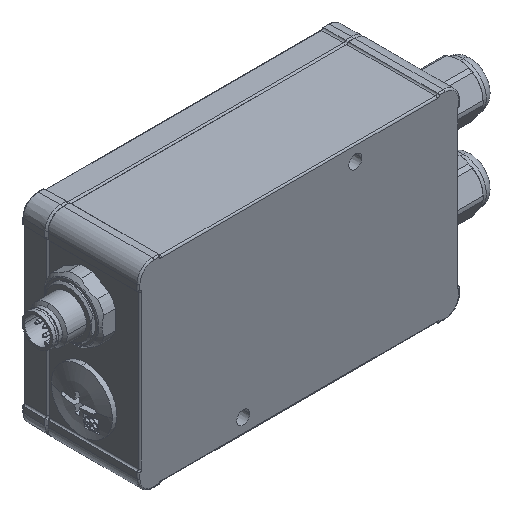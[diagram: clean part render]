
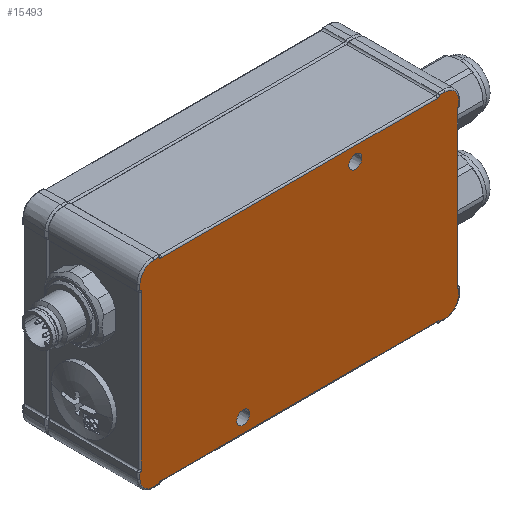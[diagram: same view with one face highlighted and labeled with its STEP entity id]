
A CAD part, isometric view. The second image highlights one B-rep face of the part: STEP entity #15493.
In plain terms, the highlighted planar face has unit normal (0, -1, 0).
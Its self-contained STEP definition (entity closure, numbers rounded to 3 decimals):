
#56=DIRECTION('',(0.,0.,1.));
#57=VECTOR('',#56,1.634);
#58=CARTESIAN_POINT('',(52.,0.,25.866));
#59=LINE('',#58,#57);
#64=CARTESIAN_POINT('',(52.5,0.,25.));
#65=DIRECTION('',(0.,-1.,0.));
#66=DIRECTION('',(-0.5,0.,0.866));
#67=AXIS2_PLACEMENT_3D('',#64,#65,#66);
#72=DIRECTION('',(0.,0.,-1.));
#73=VECTOR('',#72,50.);
#74=CARTESIAN_POINT('',(51.5,0.,25.));
#75=LINE('',#74,#73);
#79=CARTESIAN_POINT('',(52.5,0.,-25.));
#80=DIRECTION('',(0.,-1.,0.));
#81=DIRECTION('',(-1.,0.,0.));
#82=AXIS2_PLACEMENT_3D('',#79,#80,#81);
#87=DIRECTION('',(0.,0.,1.));
#88=VECTOR('',#87,1.634);
#89=CARTESIAN_POINT('',(52.,0.,-27.5));
#90=LINE('',#89,#88);
#94=CARTESIAN_POINT('',(47.5,0.,-27.5));
#95=DIRECTION('',(0.,-1.,0.));
#96=DIRECTION('',(0.,0.,-1.));
#97=AXIS2_PLACEMENT_3D('',#94,#95,#96);
#102=DIRECTION('',(1.,0.,0.));
#103=VECTOR('',#102,1.634);
#104=CARTESIAN_POINT('',(45.866,0.,-32.));
#105=LINE('',#104,#103);
#109=CARTESIAN_POINT('',(45.,0.,-32.5));
#110=DIRECTION('',(0.,-1.,0.));
#111=DIRECTION('',(0.866,0.,0.5));
#112=AXIS2_PLACEMENT_3D('',#109,#110,#111);
#117=DIRECTION('',(-1.,0.,0.));
#118=VECTOR('',#117,90.);
#119=CARTESIAN_POINT('',(45.,0.,-31.5));
#120=LINE('',#119,#118);
#124=CARTESIAN_POINT('',(-45.,0.,-32.5));
#125=DIRECTION('',(0.,-1.,0.));
#126=DIRECTION('',(0.,0.,1.));
#127=AXIS2_PLACEMENT_3D('',#124,#125,#126);
#132=DIRECTION('',(1.,0.,0.));
#133=VECTOR('',#132,1.634);
#134=CARTESIAN_POINT('',(-47.5,0.,-32.));
#135=LINE('',#134,#133);
#139=CARTESIAN_POINT('',(-47.5,0.,-27.5));
#140=DIRECTION('',(0.,-1.,0.));
#141=DIRECTION('',(-1.,0.,0.));
#142=AXIS2_PLACEMENT_3D('',#139,#140,#141);
#147=DIRECTION('',(0.,0.,-1.));
#148=VECTOR('',#147,1.634);
#149=CARTESIAN_POINT('',(-52.,0.,-25.866));
#150=LINE('',#149,#148);
#154=CARTESIAN_POINT('',(-52.5,0.,-25.));
#155=DIRECTION('',(0.,-1.,0.));
#156=DIRECTION('',(0.5,0.,-0.866));
#157=AXIS2_PLACEMENT_3D('',#154,#155,#156);
#162=DIRECTION('',(0.,0.,1.));
#163=VECTOR('',#162,50.);
#164=CARTESIAN_POINT('',(-51.5,0.,-25.));
#165=LINE('',#164,#163);
#169=CARTESIAN_POINT('',(-52.5,0.,25.));
#170=DIRECTION('',(0.,-1.,0.));
#171=DIRECTION('',(1.,0.,0.));
#172=AXIS2_PLACEMENT_3D('',#169,#170,#171);
#177=DIRECTION('',(0.,0.,-1.));
#178=VECTOR('',#177,1.634);
#179=CARTESIAN_POINT('',(-52.,0.,27.5));
#180=LINE('',#179,#178);
#184=CARTESIAN_POINT('',(-47.5,0.,27.5));
#185=DIRECTION('',(0.,-1.,0.));
#186=DIRECTION('',(0.,0.,1.));
#187=AXIS2_PLACEMENT_3D('',#184,#185,#186);
#192=DIRECTION('',(-1.,0.,0.));
#193=VECTOR('',#192,1.634);
#194=CARTESIAN_POINT('',(-45.866,0.,32.));
#195=LINE('',#194,#193);
#199=CARTESIAN_POINT('',(-45.,0.,32.5));
#200=DIRECTION('',(0.,-1.,0.));
#201=DIRECTION('',(-0.866,0.,-0.5));
#202=AXIS2_PLACEMENT_3D('',#199,#200,#201);
#207=DIRECTION('',(1.,0.,0.));
#208=VECTOR('',#207,90.);
#209=CARTESIAN_POINT('',(-45.,0.,31.5));
#210=LINE('',#209,#208);
#214=CARTESIAN_POINT('',(45.,0.,32.5));
#215=DIRECTION('',(0.,-1.,0.));
#216=DIRECTION('',(0.,0.,-1.));
#217=AXIS2_PLACEMENT_3D('',#214,#215,#216);
#222=DIRECTION('',(-1.,0.,0.));
#223=VECTOR('',#222,1.634);
#224=CARTESIAN_POINT('',(47.5,0.,32.));
#225=LINE('',#224,#223);
#229=CARTESIAN_POINT('',(47.5,0.,27.5));
#230=DIRECTION('',(0.,-1.,0.));
#231=DIRECTION('',(1.,0.,0.));
#232=AXIS2_PLACEMENT_3D('',#229,#230,#231);
#237=CARTESIAN_POINT('',(-18.3,0.,-27.));
#238=DIRECTION('',(0.,1.,0.));
#239=DIRECTION('',(1.,0.,0.));
#240=AXIS2_PLACEMENT_3D('',#237,#238,#239);
#245=CARTESIAN_POINT('',(-18.3,0.,-27.));
#246=DIRECTION('',(0.,1.,0.));
#247=DIRECTION('',(-1.,0.,0.));
#248=AXIS2_PLACEMENT_3D('',#245,#246,#247);
#253=CARTESIAN_POINT('',(18.3,0.,27.));
#254=DIRECTION('',(0.,1.,0.));
#255=DIRECTION('',(-1.,0.,0.));
#256=AXIS2_PLACEMENT_3D('',#253,#254,#255);
#261=CARTESIAN_POINT('',(18.3,0.,27.));
#262=DIRECTION('',(0.,1.,0.));
#263=DIRECTION('',(1.,0.,0.));
#264=AXIS2_PLACEMENT_3D('',#261,#262,#263);
#13659=CARTESIAN_POINT('',(-16.15,0.,-27.));
#13660=CARTESIAN_POINT('',(-20.45,0.,-27.));
#13661=VERTEX_POINT('',#13659);
#13662=VERTEX_POINT('',#13660);
#13667=CARTESIAN_POINT('',(16.15,0.,27.));
#13668=CARTESIAN_POINT('',(20.45,0.,27.));
#13669=VERTEX_POINT('',#13667);
#13670=VERTEX_POINT('',#13668);
#13695=CARTESIAN_POINT('',(52.,0.,25.866));
#13696=CARTESIAN_POINT('',(52.,0.,27.5));
#13697=VERTEX_POINT('',#13695);
#13698=VERTEX_POINT('',#13696);
#13703=CARTESIAN_POINT('',(47.5,0.,32.));
#13704=VERTEX_POINT('',#13703);
#13709=CARTESIAN_POINT('',(45.866,0.,32.));
#13710=VERTEX_POINT('',#13709);
#13715=CARTESIAN_POINT('',(51.5,0.,25.));
#13716=CARTESIAN_POINT('',(51.5,0.,-25.));
#13717=VERTEX_POINT('',#13715);
#13718=VERTEX_POINT('',#13716);
#13719=CARTESIAN_POINT('',(45.866,0.,-32.));
#13720=CARTESIAN_POINT('',(47.5,0.,-32.));
#13721=VERTEX_POINT('',#13719);
#13722=VERTEX_POINT('',#13720);
#13727=CARTESIAN_POINT('',(52.,0.,-27.5));
#13728=VERTEX_POINT('',#13727);
#13733=CARTESIAN_POINT('',(52.,0.,-25.866));
#13734=VERTEX_POINT('',#13733);
#13739=CARTESIAN_POINT('',(45.,0.,-31.5));
#13740=CARTESIAN_POINT('',(-45.,0.,-31.5));
#13741=VERTEX_POINT('',#13739);
#13742=VERTEX_POINT('',#13740);
#13743=CARTESIAN_POINT('',(-52.,0.,-25.866));
#13744=CARTESIAN_POINT('',(-52.,0.,-27.5));
#13745=VERTEX_POINT('',#13743);
#13746=VERTEX_POINT('',#13744);
#13751=CARTESIAN_POINT('',(-47.5,0.,-32.));
#13752=VERTEX_POINT('',#13751);
#13757=CARTESIAN_POINT('',(-45.866,0.,-32.));
#13758=VERTEX_POINT('',#13757);
#13763=CARTESIAN_POINT('',(-51.5,0.,-25.));
#13764=CARTESIAN_POINT('',(-51.5,0.,25.));
#13765=VERTEX_POINT('',#13763);
#13766=VERTEX_POINT('',#13764);
#13771=CARTESIAN_POINT('',(-52.,0.,27.5));
#13772=CARTESIAN_POINT('',(-52.,0.,25.866));
#13773=VERTEX_POINT('',#13771);
#13774=VERTEX_POINT('',#13772);
#13775=CARTESIAN_POINT('',(-47.5,0.,32.));
#13776=VERTEX_POINT('',#13775);
#13779=CARTESIAN_POINT('',(-45.866,0.,32.));
#13780=VERTEX_POINT('',#13779);
#13787=CARTESIAN_POINT('',(-45.,0.,31.5));
#13788=CARTESIAN_POINT('',(45.,0.,31.5));
#13789=VERTEX_POINT('',#13787);
#13790=VERTEX_POINT('',#13788);
#15426=CARTESIAN_POINT('',(0.,0.,0.));
#15427=DIRECTION('',(0.,1.,0.));
#15428=DIRECTION('',(1.,0.,0.));
#15429=AXIS2_PLACEMENT_3D('',#15426,#15427,#15428);
#15430=PLANE('',#15429);
#15432=ORIENTED_EDGE('',*,*,#15431,.F.);
#15434=ORIENTED_EDGE('',*,*,#15433,.T.);
#15436=ORIENTED_EDGE('',*,*,#15435,.T.);
#15438=ORIENTED_EDGE('',*,*,#15437,.T.);
#15440=ORIENTED_EDGE('',*,*,#15439,.F.);
#15442=ORIENTED_EDGE('',*,*,#15441,.F.);
#15444=ORIENTED_EDGE('',*,*,#15443,.F.);
#15446=ORIENTED_EDGE('',*,*,#15445,.T.);
#15448=ORIENTED_EDGE('',*,*,#15447,.T.);
#15450=ORIENTED_EDGE('',*,*,#15449,.T.);
#15452=ORIENTED_EDGE('',*,*,#15451,.F.);
#15454=ORIENTED_EDGE('',*,*,#15453,.F.);
#15456=ORIENTED_EDGE('',*,*,#15455,.F.);
#15458=ORIENTED_EDGE('',*,*,#15457,.T.);
#15460=ORIENTED_EDGE('',*,*,#15459,.T.);
#15462=ORIENTED_EDGE('',*,*,#15461,.T.);
#15464=ORIENTED_EDGE('',*,*,#15463,.F.);
#15466=ORIENTED_EDGE('',*,*,#15465,.F.);
#15468=ORIENTED_EDGE('',*,*,#15467,.F.);
#15470=ORIENTED_EDGE('',*,*,#15469,.T.);
#15472=ORIENTED_EDGE('',*,*,#15471,.T.);
#15474=ORIENTED_EDGE('',*,*,#15473,.T.);
#15476=ORIENTED_EDGE('',*,*,#15475,.F.);
#15478=ORIENTED_EDGE('',*,*,#15477,.F.);
#15479=EDGE_LOOP('',(#15432,#15434,#15436,#15438,#15440,#15442,#15444,#15446,
#15448,#15450,#15452,#15454,#15456,#15458,#15460,#15462,#15464,#15466,#15468,
#15470,#15472,#15474,#15476,#15478));
#15480=FACE_OUTER_BOUND('',#15479,.F.);
#15482=ORIENTED_EDGE('',*,*,#15481,.F.);
#15484=ORIENTED_EDGE('',*,*,#15483,.F.);
#15485=EDGE_LOOP('',(#15482,#15484));
#15486=FACE_BOUND('',#15485,.F.);
#15488=ORIENTED_EDGE('',*,*,#15487,.F.);
#15490=ORIENTED_EDGE('',*,*,#15489,.F.);
#15491=EDGE_LOOP('',(#15488,#15490));
#15492=FACE_BOUND('',#15491,.F.);
#68=CIRCLE('',#67,1.);
#83=CIRCLE('',#82,1.);
#98=CIRCLE('',#97,4.5);
#113=CIRCLE('',#112,1.);
#128=CIRCLE('',#127,1.);
#143=CIRCLE('',#142,4.5);
#158=CIRCLE('',#157,1.);
#173=CIRCLE('',#172,1.);
#188=CIRCLE('',#187,4.5);
#203=CIRCLE('',#202,1.);
#218=CIRCLE('',#217,1.);
#233=CIRCLE('',#232,4.5);
#241=CIRCLE('',#240,2.15);
#249=CIRCLE('',#248,2.15);
#257=CIRCLE('',#256,2.15);
#265=CIRCLE('',#264,2.15);
#15431=EDGE_CURVE('',#13697,#13698,#59,.T.);
#15433=EDGE_CURVE('',#13697,#13717,#68,.T.);
#15435=EDGE_CURVE('',#13717,#13718,#75,.T.);
#15437=EDGE_CURVE('',#13718,#13734,#83,.T.);
#15439=EDGE_CURVE('',#13728,#13734,#90,.T.);
#15441=EDGE_CURVE('',#13722,#13728,#98,.T.);
#15443=EDGE_CURVE('',#13721,#13722,#105,.T.);
#15445=EDGE_CURVE('',#13721,#13741,#113,.T.);
#15447=EDGE_CURVE('',#13741,#13742,#120,.T.);
#15449=EDGE_CURVE('',#13742,#13758,#128,.T.);
#15451=EDGE_CURVE('',#13752,#13758,#135,.T.);
#15453=EDGE_CURVE('',#13746,#13752,#143,.T.);
#15455=EDGE_CURVE('',#13745,#13746,#150,.T.);
#15457=EDGE_CURVE('',#13745,#13765,#158,.T.);
#15459=EDGE_CURVE('',#13765,#13766,#165,.T.);
#15461=EDGE_CURVE('',#13766,#13774,#173,.T.);
#15463=EDGE_CURVE('',#13773,#13774,#180,.T.);
#15465=EDGE_CURVE('',#13776,#13773,#188,.T.);
#15467=EDGE_CURVE('',#13780,#13776,#195,.T.);
#15469=EDGE_CURVE('',#13780,#13789,#203,.T.);
#15471=EDGE_CURVE('',#13789,#13790,#210,.T.);
#15473=EDGE_CURVE('',#13790,#13710,#218,.T.);
#15475=EDGE_CURVE('',#13704,#13710,#225,.T.);
#15477=EDGE_CURVE('',#13698,#13704,#233,.T.);
#15481=EDGE_CURVE('',#13661,#13662,#241,.T.);
#15483=EDGE_CURVE('',#13662,#13661,#249,.T.);
#15487=EDGE_CURVE('',#13669,#13670,#257,.T.);
#15489=EDGE_CURVE('',#13670,#13669,#265,.T.);
#15493=ADVANCED_FACE('',(#15480,#15486,#15492),#15430,.F.);
